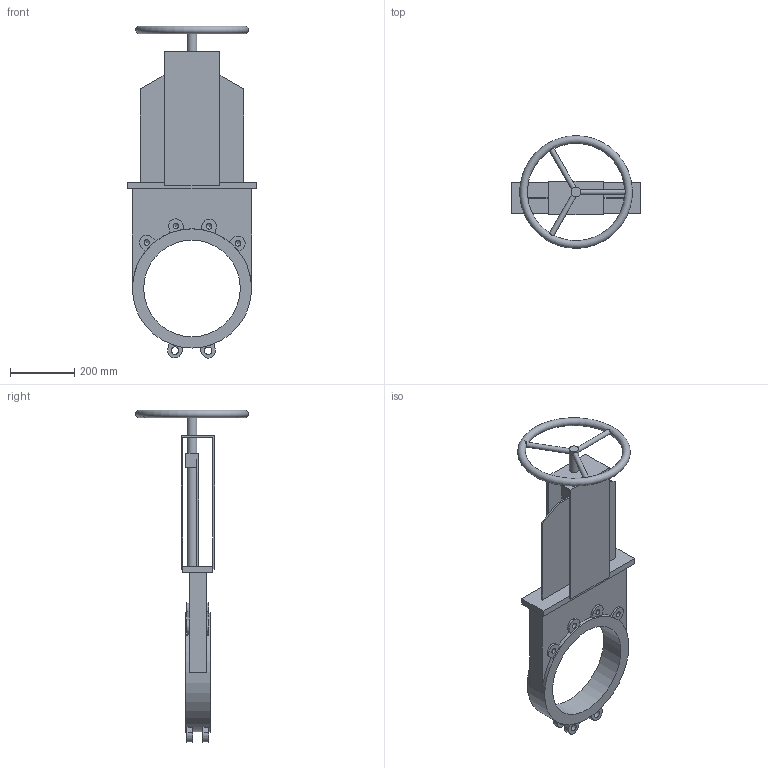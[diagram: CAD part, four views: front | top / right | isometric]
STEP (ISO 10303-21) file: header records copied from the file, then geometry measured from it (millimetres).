
FILE_DESCRIPTION(('STEP AP203'), '1');
FILE_NAME('Çàäâèæêà øèáåðíàÿ ìåæôëàíöåâàÿ K21GV DN300', '', ('UNSPECIFIED'), ('UNSPECIFIED'), 'ASCON STEP Converter 1.6', 'ASCON Math Kernel', '');
FILE_SCHEMA(('CONFIG_CONTROL_DESIGN'));
Length unit declared in the file: millimetre
Bounding box: 400 x 349.88 x 1031 mm (x, y, z)
Volume: 9239866.7 mm3; surface area: 1134031.8 mm2
Topology: 1 solids, 1 shells, 117 faces, 320 edges, 209 vertices
Faces by surface type: plane 76, cylinder 32, cone 8, torus 1
Full cylindrical faces by diameter (mm): 16 x3, 17.294 x8, 23 x4, 30 x3, 300 x1, 370 x1
Entity records: 5640 total; most frequent: CARTESIAN_POINT 1778, DIRECTION 594, ORIENTED_EDGE 560, EDGE_CURVE 280, AXIS2_PLACEMENT_3D 204, VERTEX_POINT 200, LINE 186, VECTOR 186
